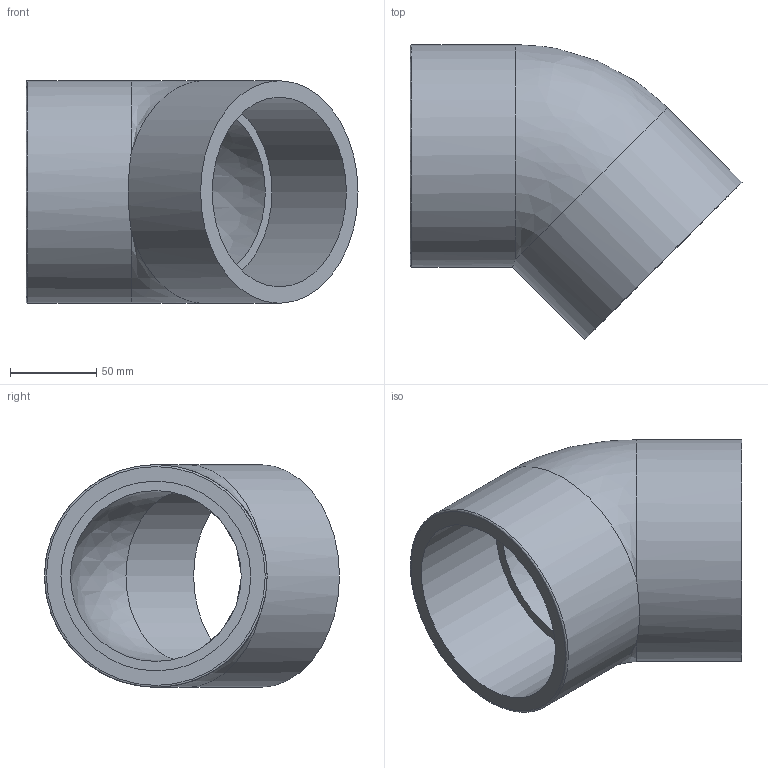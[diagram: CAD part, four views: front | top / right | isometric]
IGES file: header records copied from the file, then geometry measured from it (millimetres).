
Global section: file name: 054500110.ipt; native system: Autodesk Inventor 2015; preprocessor: unknown; author: KIM; date: 20171207.165612; units: millimetre
Bounding box: 192.42 x 170.92 x 129 mm (x, y, z)
Volume: 695661.6 mm3; surface area: 136142.1 mm2
Topology: 1 solids, 1 shells, 11 faces, 26 edges, 17 vertices
Faces by surface type: revolution 4, plane 4, cylinder 2, bspline 1
Full cylindrical faces by diameter (mm): 129 x2
